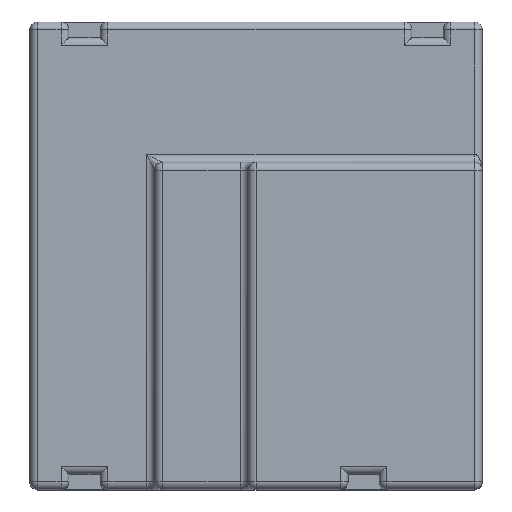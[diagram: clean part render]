
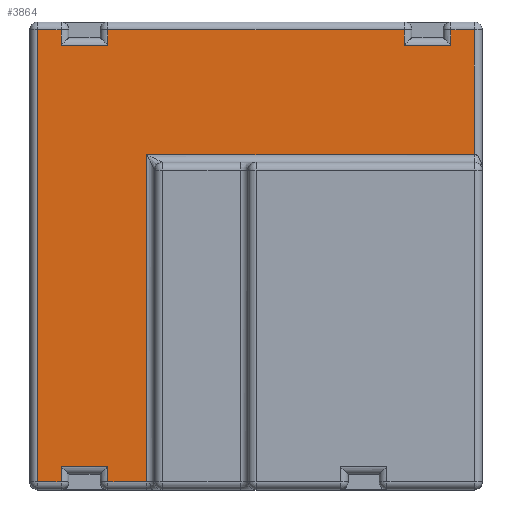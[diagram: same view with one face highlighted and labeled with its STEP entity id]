
A CAD part, top view. The second image highlights one B-rep face of the part: STEP entity #3864.
In plain terms, the highlighted planar face has unit normal (0, 0, 1).
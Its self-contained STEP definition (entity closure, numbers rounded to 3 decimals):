
#129=DIRECTION('',(0.,-1.,0.));
#130=VECTOR('',#129,21.);
#131=CARTESIAN_POINT('',(7.5,-8.5,10.2));
#132=LINE('',#131,#130);
#1116=CARTESIAN_POINT('',(7.5,-8.5,10.2));
#1126=DIRECTION('',(-1.,0.,0.));
#1127=VECTOR('',#1126,21.);
#1128=CARTESIAN_POINT('',(28.5,-8.5,10.2));
#1129=LINE('',#1128,#1127);
#1152=DIRECTION('',(0.,1.,0.));
#1153=VECTOR('',#1152,1.);
#1154=CARTESIAN_POINT('',(27.,-1.5,10.2));
#1155=LINE('',#1154,#1153);
#1276=DIRECTION('',(0.,-1.,0.));
#1277=VECTOR('',#1276,8.);
#1278=CARTESIAN_POINT('',(28.5,-0.5,10.2));
#1279=LINE('',#1278,#1277);
#1339=DIRECTION('',(1.,0.,0.));
#1340=VECTOR('',#1339,1.5);
#1341=CARTESIAN_POINT('',(27.,-0.5,10.2));
#1342=LINE('',#1341,#1340);
#1403=DIRECTION('',(1.,0.,0.));
#1404=VECTOR('',#1403,3.);
#1405=CARTESIAN_POINT('',(24.,-1.5,10.2));
#1406=LINE('',#1405,#1404);
#1453=CARTESIAN_POINT('',(27.,-1.5,10.2));
#1470=DIRECTION('',(0.,-1.,0.));
#1471=VECTOR('',#1470,1.);
#1472=CARTESIAN_POINT('',(24.,-0.5,10.2));
#1473=LINE('',#1472,#1471);
#1517=DIRECTION('',(1.,0.,0.));
#1518=VECTOR('',#1517,19.);
#1519=CARTESIAN_POINT('',(5.,-0.5,10.2));
#1520=LINE('',#1519,#1518);
#1571=DIRECTION('',(0.,1.,0.));
#1572=VECTOR('',#1571,1.);
#1573=CARTESIAN_POINT('',(5.,-1.5,10.2));
#1574=LINE('',#1573,#1572);
#1615=DIRECTION('',(1.,0.,0.));
#1616=VECTOR('',#1615,3.);
#1617=CARTESIAN_POINT('',(2.,-1.5,10.2));
#1618=LINE('',#1617,#1616);
#1709=DIRECTION('',(0.,-1.,0.));
#1710=VECTOR('',#1709,1.);
#1711=CARTESIAN_POINT('',(2.,-0.5,10.2));
#1712=LINE('',#1711,#1710);
#1778=DIRECTION('',(1.,0.,0.));
#1779=VECTOR('',#1778,1.5);
#1780=CARTESIAN_POINT('',(0.5,-0.5,10.2));
#1781=LINE('',#1780,#1779);
#1853=DIRECTION('',(0.,1.,0.));
#1854=VECTOR('',#1853,29.);
#1855=CARTESIAN_POINT('',(0.5,-29.5,10.2));
#1856=LINE('',#1855,#1854);
#1928=DIRECTION('',(-1.,0.,0.));
#1929=VECTOR('',#1928,1.5);
#1930=CARTESIAN_POINT('',(2.,-29.5,10.2));
#1931=LINE('',#1930,#1929);
#1975=DIRECTION('',(0.,-1.,0.));
#1976=VECTOR('',#1975,1.);
#1977=CARTESIAN_POINT('',(2.,-28.5,10.2));
#1978=LINE('',#1977,#1976);
#2019=DIRECTION('',(-1.,0.,0.));
#2020=VECTOR('',#2019,3.);
#2021=CARTESIAN_POINT('',(5.,-28.5,10.2));
#2022=LINE('',#2021,#2020);
#2113=DIRECTION('',(0.,1.,0.));
#2114=VECTOR('',#2113,1.);
#2115=CARTESIAN_POINT('',(5.,-29.5,10.2));
#2116=LINE('',#2115,#2114);
#2182=DIRECTION('',(-1.,0.,0.));
#2183=VECTOR('',#2182,2.5);
#2184=CARTESIAN_POINT('',(7.5,-29.5,10.2));
#2185=LINE('',#2184,#2183);
#2580=VERTEX_POINT('',#1116);
#2640=CARTESIAN_POINT('',(7.5,-29.5,10.2));
#2641=VERTEX_POINT('',#2640);
#2659=CARTESIAN_POINT('',(24.,-0.5,10.2));
#2660=VERTEX_POINT('',#2659);
#2661=CARTESIAN_POINT('',(24.,-1.5,10.2));
#2662=VERTEX_POINT('',#2661);
#2666=CARTESIAN_POINT('',(27.,-0.5,10.2));
#2668=VERTEX_POINT('',#2666);
#2674=VERTEX_POINT('',#1453);
#2683=CARTESIAN_POINT('',(5.,-0.5,10.2));
#2684=VERTEX_POINT('',#2683);
#2685=CARTESIAN_POINT('',(5.,-1.5,10.2));
#2686=VERTEX_POINT('',#2685);
#2687=CARTESIAN_POINT('',(2.,-1.5,10.2));
#2688=VERTEX_POINT('',#2687);
#2689=CARTESIAN_POINT('',(2.,-0.5,10.2));
#2690=VERTEX_POINT('',#2689);
#2691=CARTESIAN_POINT('',(0.5,-0.5,10.2));
#2692=VERTEX_POINT('',#2691);
#2693=CARTESIAN_POINT('',(0.5,-29.5,10.2));
#2694=VERTEX_POINT('',#2693);
#2695=CARTESIAN_POINT('',(2.,-29.5,10.2));
#2696=VERTEX_POINT('',#2695);
#2697=CARTESIAN_POINT('',(2.,-28.5,10.2));
#2698=VERTEX_POINT('',#2697);
#2699=CARTESIAN_POINT('',(5.,-28.5,10.2));
#2700=VERTEX_POINT('',#2699);
#2701=CARTESIAN_POINT('',(5.,-29.5,10.2));
#2702=VERTEX_POINT('',#2701);
#2703=CARTESIAN_POINT('',(28.5,-8.5,10.2));
#2704=VERTEX_POINT('',#2703);
#2705=CARTESIAN_POINT('',(28.5,-0.5,10.2));
#2706=VERTEX_POINT('',#2705);
#3823=CARTESIAN_POINT('',(8.,0.,10.2));
#3824=DIRECTION('',(0.,0.,-1.));
#3825=DIRECTION('',(-1.,0.,0.));
#3826=AXIS2_PLACEMENT_3D('',#3823,#3824,#3825);
#3827=PLANE('',#3826);
#3829=ORIENTED_EDGE('',*,*,#3828,.T.);
#3831=ORIENTED_EDGE('',*,*,#3830,.T.);
#3833=ORIENTED_EDGE('',*,*,#3832,.T.);
#3834=ORIENTED_EDGE('',*,*,#3814,.T.);
#3835=ORIENTED_EDGE('',*,*,#3001,.T.);
#3837=ORIENTED_EDGE('',*,*,#3836,.T.);
#3839=ORIENTED_EDGE('',*,*,#3838,.T.);
#3841=ORIENTED_EDGE('',*,*,#3840,.T.);
#3843=ORIENTED_EDGE('',*,*,#3842,.T.);
#3845=ORIENTED_EDGE('',*,*,#3844,.T.);
#3847=ORIENTED_EDGE('',*,*,#3846,.T.);
#3849=ORIENTED_EDGE('',*,*,#3848,.T.);
#3851=ORIENTED_EDGE('',*,*,#3850,.T.);
#3853=ORIENTED_EDGE('',*,*,#3852,.T.);
#3855=ORIENTED_EDGE('',*,*,#3854,.T.);
#3857=ORIENTED_EDGE('',*,*,#3856,.T.);
#3859=ORIENTED_EDGE('',*,*,#3858,.T.);
#3861=ORIENTED_EDGE('',*,*,#3860,.T.);
#3862=EDGE_LOOP('',(#3829,#3831,#3833,#3834,#3835,#3837,#3839,#3841,#3843,#3845,
#3847,#3849,#3851,#3853,#3855,#3857,#3859,#3861));
#3863=FACE_OUTER_BOUND('',#3862,.F.);
#3864=ADVANCED_FACE('',(#3863),#3827,.F.);
#3001=EDGE_CURVE('',#2580,#2641,#132,.T.);
#3814=EDGE_CURVE('',#2704,#2580,#1129,.T.);
#3828=EDGE_CURVE('',#2674,#2668,#1155,.T.);
#3830=EDGE_CURVE('',#2668,#2706,#1342,.T.);
#3832=EDGE_CURVE('',#2706,#2704,#1279,.T.);
#3836=EDGE_CURVE('',#2641,#2702,#2185,.T.);
#3838=EDGE_CURVE('',#2702,#2700,#2116,.T.);
#3840=EDGE_CURVE('',#2700,#2698,#2022,.T.);
#3842=EDGE_CURVE('',#2698,#2696,#1978,.T.);
#3844=EDGE_CURVE('',#2696,#2694,#1931,.T.);
#3846=EDGE_CURVE('',#2694,#2692,#1856,.T.);
#3848=EDGE_CURVE('',#2692,#2690,#1781,.T.);
#3850=EDGE_CURVE('',#2690,#2688,#1712,.T.);
#3852=EDGE_CURVE('',#2688,#2686,#1618,.T.);
#3854=EDGE_CURVE('',#2686,#2684,#1574,.T.);
#3856=EDGE_CURVE('',#2684,#2660,#1520,.T.);
#3858=EDGE_CURVE('',#2660,#2662,#1473,.T.);
#3860=EDGE_CURVE('',#2662,#2674,#1406,.T.);
